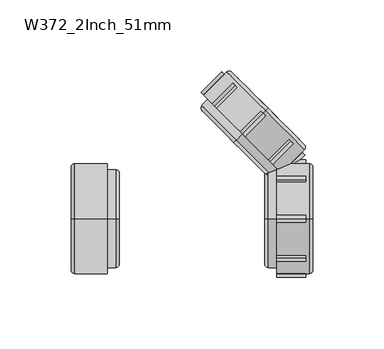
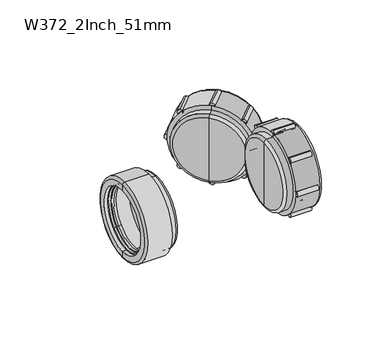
"""IFC4 building model written with IfcOpenShell, lengths in millimetres: pipe fitting geometry, Durapipe_PipeFitting_VulcatheneMechanical_SingleWye_W37 : W372_2Inch_51mm."""

from ifc_helpers import new_model, si_unit, point, frame, frame_2d, origin, place, context, project, spatial, polyline, circle_curve, ellipse_curve, trimmed, segment, composite_curve, outline, extrude, source, transform, mapped, element, save
from ifc_brep_helpers import plane_surface, cylinder_surface, revolved_surface, advanced_brep


def w372_2inch_51mm_546ab476(model_context):
    return source(origin(), model_context, "Body", "SolidModel", [
        advanced_brep(
        [(90.8911868, 58.5911868, -22.839549), (89.7911868, 59.6911868, -21.2839141), (59.6911868, 89.7911868, 21.2839141), (58.5911868, 90.8911868, 22.839549), (86.5813888, 54.9813888, -22.3445743), (54.9813888, 86.5813888, 22.3445743), (85.2914393, 54.2914393, -21.9203102), (86.2813888, 55.2813888, -21.9203102), (55.2813888, 86.2813888, 21.9203102), (54.2914393, 85.2914393, 21.9203102), (54.9914393, 84.5914393, 20.9303607), (84.5914393, 54.9914393, -20.9303607), (56.6177849, 86.2177849, 20.9303607), (86.2177849, 56.6177849, -20.9303607), (56.8177849, 86.0177849, 20.647518), (86.0177849, 56.8177849, -20.647518), (88.0234198, 57.9234198, -21.2839141), (87.5734198, 58.3734198, -20.647518), (58.3734198, 87.5734198, 20.647518), (57.9234198, 88.0234198, 21.2839141)],
        [
            (0, 1),
            (1, 2, circle_curve(frame((74.7411868, 74.7411868, 0.0), z_axis=(-0.7071067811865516, -0.7071067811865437, 0.0), x_axis=(-0.49999999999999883, 0.5000000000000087, 0.7071067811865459)), 30.1)),
            (2, 3),
            (3, 0, circle_curve(frame((74.7411868, 74.7411868, 0.0), z_axis=(0.7071067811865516, 0.7071067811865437, 0.0), x_axis=(-0.49999999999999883, 0.5000000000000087, 0.7071067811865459)), 32.3)),
            (2, 1, circle_curve(frame((74.7411868, 74.7411868, 0.0), z_axis=(-0.7071067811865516, -0.7071067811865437, 0.0), x_axis=(-0.49999999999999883, 0.5000000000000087, 0.7071067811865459)), 30.1)),
            (0, 3, circle_curve(frame((74.7411868, 74.7411868, 0.0), z_axis=(0.7071067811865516, 0.7071067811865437, 0.0), x_axis=(-0.49999999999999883, 0.5000000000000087, 0.7071067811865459)), 32.3)),
            (4, 0),
            (3, 5),
            (5, 4, circle_curve(frame((70.7813888, 70.7813888, 0.0), z_axis=(0.7071067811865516, 0.7071067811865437, 0.0), x_axis=(-0.49999999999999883, 0.5000000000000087, 0.7071067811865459)), 31.6)),
            (4, 5, circle_curve(frame((70.7813888, 70.7813888, 0.0), z_axis=(0.7071067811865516, 0.7071067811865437, 0.0), x_axis=(-0.49999999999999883, 0.5000000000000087, 0.7071067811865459)), 31.6)),
            (6, 7),
            (7, 8, circle_curve(frame((70.7813888, 70.7813888, 0.0), z_axis=(-0.7071067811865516, -0.7071067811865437, 0.0), x_axis=(-0.49999999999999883, 0.5000000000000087, 0.7071067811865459)), 31.0)),
            (8, 9),
            (9, 6, circle_curve(frame((69.7914393, 69.7914393, 0.0), z_axis=(0.7071067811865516, 0.7071067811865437, 0.0), x_axis=(-0.49999999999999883, 0.5000000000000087, 0.7071067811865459)), 31.0)),
            (8, 7, circle_curve(frame((70.7813888, 70.7813888, 0.0), z_axis=(-0.7071067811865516, -0.7071067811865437, 0.0), x_axis=(-0.49999999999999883, 0.5000000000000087, 0.7071067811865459)), 31.0)),
            (6, 9, circle_curve(frame((69.7914393, 69.7914393, 0.0), z_axis=(0.7071067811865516, 0.7071067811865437, 0.0), x_axis=(-0.49999999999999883, 0.5000000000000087, 0.7071067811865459)), 31.0)),
            (9, 10),
            (10, 11, circle_curve(frame((69.7914393, 69.7914393, 0.0), z_axis=(0.7071067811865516, 0.7071067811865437, 0.0), x_axis=(-0.49999999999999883, 0.5000000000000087, 0.7071067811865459)), 29.6)),
            (11, 6),
            (11, 10, circle_curve(frame((69.7914393, 69.7914393, 0.0), z_axis=(0.7071067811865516, 0.7071067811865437, 0.0), x_axis=(-0.49999999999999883, 0.5000000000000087, 0.7071067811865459)), 29.6)),
            (10, 12),
            (12, 13, circle_curve(frame((71.4177849, 71.4177849, 0.0), z_axis=(0.7071067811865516, 0.7071067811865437, 0.0), x_axis=(-0.49999999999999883, 0.5000000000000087, 0.7071067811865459)), 29.6)),
            (13, 11),
            (13, 12, circle_curve(frame((71.4177849, 71.4177849, 0.0), z_axis=(0.7071067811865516, 0.7071067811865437, 0.0), x_axis=(-0.49999999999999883, 0.5000000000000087, 0.7071067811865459)), 29.6)),
            (12, 14),
            (14, 15, circle_curve(frame((71.4177849, 71.4177849, 0.0), z_axis=(0.7071067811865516, 0.7071067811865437, 0.0), x_axis=(-0.49999999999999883, 0.5000000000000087, 0.7071067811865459)), 29.2)),
            (15, 13),
            (15, 14, circle_curve(frame((71.4177849, 71.4177849, 0.0), z_axis=(0.7071067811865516, 0.7071067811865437, 0.0), x_axis=(-0.49999999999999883, 0.5000000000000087, 0.7071067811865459)), 29.2)),
            (16, 17),
            (17, 18, circle_curve(frame((72.9734198, 72.9734198, 0.0), z_axis=(-0.7071067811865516, -0.7071067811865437, 0.0), x_axis=(-0.49999999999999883, 0.5000000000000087, 0.7071067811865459)), 29.2)),
            (18, 19),
            (19, 16, circle_curve(frame((72.9734198, 72.9734198, 0.0), z_axis=(0.7071067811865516, 0.7071067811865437, 0.0), x_axis=(-0.49999999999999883, 0.5000000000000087, 0.7071067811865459)), 30.1)),
            (18, 17, circle_curve(frame((72.9734198, 72.9734198, 0.0), z_axis=(-0.7071067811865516, -0.7071067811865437, 0.0), x_axis=(-0.49999999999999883, 0.5000000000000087, 0.7071067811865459)), 29.2)),
            (16, 19, circle_curve(frame((72.9734198, 72.9734198, 0.0), z_axis=(0.7071067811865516, 0.7071067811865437, 0.0), x_axis=(-0.49999999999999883, 0.5000000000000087, 0.7071067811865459)), 30.1)),
            (1, 16),
            (19, 2),
            (14, 18),
            (17, 15),
            (5, 8),
            (7, 4),
        ],
        [
            plane_surface(frame((74.7411868, 74.7411868, 0.0), z_axis=(0.7071067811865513, 0.7071067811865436, 0.0), x_axis=(-0.4999999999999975, 0.5000000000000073, 0.707106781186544))),
            revolved_surface(polyline([(58.5911868, 90.8911868, 22.839549), (54.9813888, 86.5813888, 22.3445743)]), (78.2767207, 78.2767207, 0.0), (-0.7071067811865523, -0.7071067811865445, 0.0)),
            cylinder_surface(frame((68.3272646, 68.3272646, 0.0), z_axis=(-0.7071067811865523, -0.7071067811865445, 0.0), x_axis=(-0.49999999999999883, 0.5000000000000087, 0.7071067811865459)), 31.0),
            plane_surface(frame((69.7914393, 69.7914393, 0.0), z_axis=(-0.7071067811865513, -0.7071067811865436, 0.0), x_axis=(-0.4999999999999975, 0.5000000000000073, 0.707106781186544))),
            revolved_surface(polyline([(54.991439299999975, 84.59143930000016, 20.93036072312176), (56.617784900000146, 86.21778490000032, 20.93036072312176)]), (67.3215217, 67.3215217, 0.0), (-0.7071067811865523, -0.7071067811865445, 0.0)),
            plane_surface(frame((71.4177849, 71.4177849, 0.0), z_axis=(-0.7071067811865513, -0.7071067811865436, 0.0), x_axis=(-0.4999999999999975, 0.5000000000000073, 0.707106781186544))),
            plane_surface(frame((72.9734198, 72.9734198, 0.0), z_axis=(0.7071067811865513, 0.7071067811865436, 0.0), x_axis=(-0.4999999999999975, 0.5000000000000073, 0.707106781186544))),
            revolved_surface(polyline([(57.923419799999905, 88.0234198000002, 21.28391411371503), (59.69118680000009, 89.79118680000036, 21.28391411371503)]), (78.2767207, 78.2767207, 0.0), (-0.7071067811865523, -0.7071067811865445, 0.0)),
            revolved_surface(polyline([(56.817784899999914, 86.01778490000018, 20.64751801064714), (58.37341980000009, 87.57341980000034, 20.64751801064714)]), (75.8486521, 75.8486521, 0.0), (-0.7071067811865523, -0.7071067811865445, 0.0)),
            plane_surface(frame((70.7813888, 70.7813888, 0.0), z_axis=(-0.7071067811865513, -0.7071067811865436, 0.0), x_axis=(-0.4999999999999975, 0.5000000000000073, 0.707106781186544))),
        ],
        [
            (0, [[1, 2, 3, 4]]),
            (0, [[5, -1, 6, -3]]),
            (1, [[7, -4, 8, 9]]),
            (1, [[-8, -6, -7, 10]]),
            (2, [[11, 12, 13, 14]]),
            (2, [[15, -11, 16, -13]]),
            (3, [[17, 18, 19, -14]]),
            (3, [[-19, 20, -17, -16]]),
            (4, [[-18, 21, 22, 23]]),
            (4, [[24, -21, -20, -23]]),
            (5, [[25, 26, 27, -22]]),
            (5, [[-27, 28, -25, -24]]),
            (6, [[29, 30, 31, 32]]),
            (6, [[-31, 33, -29, 34]]),
            (7, [[35, -32, 36, -2]]),
            (7, [[-36, -34, -35, -5]]),
            (8, [[-26, 37, -30, 38]]),
            (8, [[-33, -37, -28, -38]]),
            (9, [[39, -12, 40, -9]]),
            (9, [[-40, -15, -39, -10]]),
        ],
    ),
        advanced_brep(
        [(59.538391, 59.538391, -38.8), (75.7311363, 75.7311363, -38.8), (75.7311363, 75.7311363, 38.8), (59.538391, 59.538391, 38.8), (59.538391, 59.538391, -34.5), (59.538391, 59.538391, 34.5), (77.4989032, 77.4989032, -36.3), (77.4989032, 77.4989032, -31.0), (77.4989032, 77.4989032, 31.0), (77.4989032, 77.4989032, 36.3), (74.7411868, 74.7411868, -33.0), (59.538391, 59.538391, -33.0), (59.538391, 59.538391, 33.0), (74.7411868, 74.7411868, 33.0), (74.7411868, 74.7411868, -31.0), (74.7411868, 74.7411868, 31.0), (55.2957503, 55.2957503, -34.5), (55.2957503, 55.2957503, 34.5), (53.5279833, 53.5279833, -32.0), (53.5279833, 53.5279833, 32.0), (53.5279833, 53.5279833, 0.0), (59.538391, 59.538391, 0.0)],
        [
            (0, 1),
            (1, 2, circle_curve(frame((75.7311363, 75.7311363, 0.0), z_axis=(-0.7071067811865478, -0.7071067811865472, 0.0), x_axis=(0.0, 0.0, 1.0000000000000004)), 38.8)),
            (2, 3),
            (3, 0, circle_curve(frame((59.538391, 59.538391, 0.0), z_axis=(0.7071067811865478, 0.7071067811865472, 0.0), x_axis=(0.0, 0.0, 1.0000000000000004)), 38.8)),
            (2, 1, circle_curve(frame((75.7311363, 75.7311363, 0.0), z_axis=(-0.7071067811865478, -0.7071067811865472, 0.0), x_axis=(0.0, 0.0, 1.0000000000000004)), 38.8)),
            (0, 3, circle_curve(frame((59.538391, 59.538391, 0.0), z_axis=(0.7071067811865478, 0.7071067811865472, 0.0), x_axis=(0.0, 0.0, 1.0000000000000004)), 38.8)),
            (4, 0),
            (3, 5),
            (5, 4, circle_curve(frame((59.538391, 59.538391, 0.0), z_axis=(0.7071067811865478, 0.7071067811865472, 0.0), x_axis=(0.0, 0.0, 1.0000000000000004)), 34.5)),
            (4, 5, circle_curve(frame((59.538391, 59.538391, 0.0), z_axis=(0.7071067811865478, 0.7071067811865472, 0.0), x_axis=(0.0, 0.0, 1.0000000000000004)), 34.5)),
            (6, 7),
            (7, 8, circle_curve(frame((77.4989032, 77.4989032, 0.0), z_axis=(-0.7071067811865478, -0.7071067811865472, 0.0), x_axis=(0.0, 0.0, 1.0000000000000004)), 31.0)),
            (8, 9),
            (9, 6, circle_curve(frame((77.4989032, 77.4989032, 0.0), z_axis=(0.7071067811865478, 0.7071067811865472, 0.0), x_axis=(0.0, 0.0, 1.0000000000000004)), 36.3)),
            (8, 7, circle_curve(frame((77.4989032, 77.4989032, 0.0), z_axis=(-0.7071067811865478, -0.7071067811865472, 0.0), x_axis=(0.0, 0.0, 1.0000000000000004)), 31.0)),
            (6, 9, circle_curve(frame((77.4989032, 77.4989032, 0.0), z_axis=(0.7071067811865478, 0.7071067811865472, 0.0), x_axis=(0.0, 0.0, 1.0000000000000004)), 36.3)),
            (1, 6, circle_curve(frame((75.7311363, 75.7311363, -36.3), z_axis=(0.7071067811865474, -0.7071067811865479, 0.0), x_axis=(0.7071067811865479, 0.7071067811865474, 0.0)), 2.5)),
            (9, 2, circle_curve(frame((75.7311363, 75.7311363, 36.3), z_axis=(0.7071067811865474, -0.7071067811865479, 0.0), x_axis=(0.7071067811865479, 0.7071067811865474, 0.0)), 2.5)),
            (10, 11),
            (11, 12, circle_curve(frame((59.538391, 59.538391, 0.0), z_axis=(-0.7071067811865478, -0.7071067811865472, 0.0), x_axis=(0.0, 0.0, 1.0000000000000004)), 33.0)),
            (12, 13),
            (13, 10, circle_curve(frame((74.7411868, 74.7411868, 0.0), z_axis=(0.7071067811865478, 0.7071067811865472, 0.0), x_axis=(0.0, 0.0, 1.0000000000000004)), 33.0)),
            (12, 11, circle_curve(frame((59.538391, 59.538391, 0.0), z_axis=(-0.7071067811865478, -0.7071067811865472, 0.0), x_axis=(0.0, 0.0, 1.0000000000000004)), 33.0)),
            (10, 13, circle_curve(frame((74.7411868, 74.7411868, 0.0), z_axis=(0.7071067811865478, 0.7071067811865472, 0.0), x_axis=(0.0, 0.0, 1.0000000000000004)), 33.0)),
            (14, 10),
            (13, 15),
            (15, 14, circle_curve(frame((74.7411868, 74.7411868, 0.0), z_axis=(0.7071067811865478, 0.7071067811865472, 0.0), x_axis=(0.0, 0.0, 1.0000000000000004)), 31.0)),
            (14, 15, circle_curve(frame((74.7411868, 74.7411868, 0.0), z_axis=(0.7071067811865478, 0.7071067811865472, 0.0), x_axis=(0.0, 0.0, 1.0000000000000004)), 31.0)),
            (7, 14),
            (15, 8),
            (16, 4),
            (5, 17),
            (17, 16, circle_curve(frame((55.2957503, 55.2957503, 0.0), z_axis=(0.7071067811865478, 0.7071067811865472, 0.0), x_axis=(0.0, 0.0, 1.0000000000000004)), 34.5)),
            (16, 17, circle_curve(frame((55.2957503, 55.2957503, 0.0), z_axis=(0.7071067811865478, 0.7071067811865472, 0.0), x_axis=(0.0, 0.0, 1.0000000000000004)), 34.5)),
            (18, 16, circle_curve(frame((55.2957503, 55.2957503, -32.0), z_axis=(0.7071067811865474, -0.7071067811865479, 0.0), x_axis=(0.7071067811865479, 0.7071067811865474, 0.0)), 2.5)),
            (17, 19, circle_curve(frame((55.2957503, 55.2957503, 32.0), z_axis=(0.7071067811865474, -0.7071067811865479, 0.0), x_axis=(0.7071067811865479, 0.7071067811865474, 0.0)), 2.5)),
            (19, 18, circle_curve(frame((53.5279833, 53.5279833, 0.0), z_axis=(0.7071067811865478, 0.7071067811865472, 0.0), x_axis=(0.0, 0.0, 1.0000000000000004)), 32.0)),
            (18, 19, circle_curve(frame((53.5279833, 53.5279833, 0.0), z_axis=(0.7071067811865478, 0.7071067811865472, 0.0), x_axis=(0.0, 0.0, 1.0000000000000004)), 32.0)),
            (20, 18),
            (19, 20),
            (11, 21),
            (21, 12),
        ],
        [
            cylinder_surface(frame((1181.1524531, 1181.1524531, 0.0), z_axis=(-0.7071067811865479, -0.7071067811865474, 0.0), x_axis=(0.0, 0.0, 1.0000000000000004)), 38.8),
            plane_surface(frame((59.538391, 59.538391, 0.0), z_axis=(-0.7071067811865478, -0.7071067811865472, 0.0), x_axis=(0.0, 0.0, 1.0))),
            plane_surface(frame((77.4989032, 77.4989032, 0.0), z_axis=(0.7071067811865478, 0.7071067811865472, 0.0), x_axis=(0.0, 0.0, 1.0))),
            revolved_surface(trimmed(ellipse_curve(frame((75.7311363, 75.7311363, 36.3), z_axis=(0.7071067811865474, -0.7071067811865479, 0.0), x_axis=(0.7071067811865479, 0.7071067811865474, 0.0)), 2.5, 2.5), [point((77.4989032, 77.4989032, 36.3))], [point((75.7311363, 75.7311363, 38.8))], True, "CARTESIAN"), (1181.1524531, 1181.1524531, 0.0), (-0.7071067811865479, -0.7071067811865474, 0.0)),
            revolved_surface(polyline([(59.538390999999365, 59.538391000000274, 33.000000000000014), (74.74118679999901, 74.74118679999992, 33.000000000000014)]), (1181.1524531, 1181.1524531, 0.0), (-0.7071067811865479, -0.7071067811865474, 0.0)),
            plane_surface(frame((74.7411868, 74.7411868, 0.0), z_axis=(-0.7071067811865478, -0.7071067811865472, 0.0), x_axis=(0.0, 0.0, 1.0))),
            revolved_surface(polyline([(74.74118679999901, 74.74118679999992, 31.000000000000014), (77.49890319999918, 77.49890320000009, 31.000000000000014)]), (1181.1524531, 1181.1524531, 0.0), (-0.7071067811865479, -0.7071067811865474, 0.0)),
            cylinder_surface(frame((1181.1524531, 1181.1524531, 0.0), z_axis=(-0.7071067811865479, -0.7071067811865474, 0.0), x_axis=(0.0, 0.0, 1.0000000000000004)), 34.5),
            revolved_surface(trimmed(ellipse_curve(frame((55.2957503, 55.2957503, 32.0), z_axis=(0.7071067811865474, -0.7071067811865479, 0.0), x_axis=(0.7071067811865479, 0.7071067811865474, 0.0)), 2.5, 2.5), [point((55.2957503, 55.2957503, 34.5))], [point((53.5279833, 53.5279833, 32.0))], True, "CARTESIAN"), (1181.1524531, 1181.1524531, 0.0), (-0.7071067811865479, -0.7071067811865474, 0.0)),
            plane_surface(frame((53.5279833, 53.5279833, 0.0), z_axis=(-0.7071067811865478, -0.7071067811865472, 0.0), x_axis=(0.0, 0.0, 1.0))),
            plane_surface(frame((59.538391, 59.538391, 0.0), z_axis=(0.7071067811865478, 0.7071067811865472, 0.0), x_axis=(0.0, 0.0, 1.0))),
        ],
        [
            (0, [[1, 2, 3, 4]]),
            (0, [[-3, 5, -1, 6]]),
            (1, [[7, -4, 8, 9]]),
            (1, [[-8, -6, -7, 10]]),
            (2, [[11, 12, 13, 14]]),
            (2, [[-13, 15, -11, 16]]),
            (3, [[17, -14, 18, -2]]),
            (3, [[-18, -16, -17, -5]]),
            (4, [[19, 20, 21, 22]]),
            (4, [[-21, 23, -19, 24]]),
            (5, [[25, -22, 26, 27]]),
            (5, [[-26, -24, -25, 28]]),
            (6, [[29, -27, 30, -12]]),
            (6, [[-30, -28, -29, -15]]),
            (7, [[31, -9, 32, 33]]),
            (7, [[-32, -10, -31, 34]]),
            (8, [[35, -33, 36, 37]]),
            (8, [[-36, -34, -35, 38]]),
            (9, [[39, -37, 40]]),
            (9, [[-40, -38, -39]]),
            (10, [[41, 42, -20]]),
            (10, [[-42, -41, -23]]),
        ],
    ),
        extrude(outline(composite_curve([segment(trimmed(circle_curve(frame_2d((0.0, 2.5)), 2.5), [point((0.0, 5.0))], [point((0.0, 0.0))], False, "CARTESIAN"), True, "CONTINUOUS"), segment(trimmed(circle_curve(frame_2d((0.0, 2.5)), 2.5), [point((0.0, 0.0))], [point((0.0, 5.0))], False, "CARTESIAN"), True, "CONTINUOUS")], self_intersect=False)), frame((32.1026479, 86.9741341, 2.5), z_axis=(0.7071067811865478, 0.7071067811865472, 0.0), x_axis=(0.7071067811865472, -0.7071067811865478, 0.0)), (0.0, 0.0, 1.0), 20.4),
        extrude(outline(composite_curve([segment(trimmed(circle_curve(frame_2d((11.3642569, -24.9357431)), 2.5), [point((11.3642569, -22.4357431))], [point((11.3642569, -27.4357431))], False, "CARTESIAN"), True, "CONTINUOUS"), segment(trimmed(circle_curve(frame_2d((11.3642569, -24.9357431)), 2.5), [point((11.3642569, -27.4357431))], [point((11.3642569, -22.4357431))], False, "CARTESIAN"), True, "CONTINUOUS")], self_intersect=False)), frame((32.1026479, 86.9741341, 2.5), z_axis=(0.7071067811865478, 0.7071067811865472, 0.0), x_axis=(0.7071067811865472, -0.7071067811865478, 0.0)), (0.0, 0.0, 1.0), 20.4),
        extrude(outline(composite_curve([segment(trimmed(circle_curve(frame_2d((38.8, -36.3)), 2.5), [point((38.8, -33.8))], [point((38.8, -38.8))], False, "CARTESIAN"), True, "CONTINUOUS"), segment(trimmed(circle_curve(frame_2d((38.8, -36.3)), 2.5), [point((38.8, -38.8))], [point((38.8, -33.8))], False, "CARTESIAN"), True, "CONTINUOUS")], self_intersect=False)), frame((32.1026479, 86.9741341, 2.5), z_axis=(0.7071067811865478, 0.7071067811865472, 0.0), x_axis=(0.7071067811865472, -0.7071067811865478, 0.0)), (0.0, 0.0, 1.0), 20.4),
        extrude(outline(composite_curve([segment(trimmed(circle_curve(frame_2d((66.2357431, -24.9357431)), 2.5), [point((66.2357431, -22.4357431))], [point((66.2357431, -27.4357431))], False, "CARTESIAN"), True, "CONTINUOUS"), segment(trimmed(circle_curve(frame_2d((66.2357431, -24.9357431)), 2.5), [point((66.2357431, -27.4357431))], [point((66.2357431, -22.4357431))], False, "CARTESIAN"), True, "CONTINUOUS")], self_intersect=False)), frame((32.1026479, 86.9741341, 2.5), z_axis=(0.7071067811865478, 0.7071067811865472, 0.0), x_axis=(0.7071067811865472, -0.7071067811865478, 0.0)), (0.0, 0.0, 1.0), 20.4),
        extrude(outline(composite_curve([segment(trimmed(circle_curve(frame_2d((77.6, 2.5)), 2.5), [point((77.6, 5.0))], [point((77.6, 0.0))], False, "CARTESIAN"), True, "CONTINUOUS"), segment(trimmed(circle_curve(frame_2d((77.6, 2.5)), 2.5), [point((77.6, 0.0))], [point((77.6, 5.0))], False, "CARTESIAN"), True, "CONTINUOUS")], self_intersect=False)), frame((32.1026479, 86.9741341, 2.5), z_axis=(0.7071067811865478, 0.7071067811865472, 0.0), x_axis=(0.7071067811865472, -0.7071067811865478, 0.0)), (0.0, 0.0, 1.0), 20.4),
        extrude(outline(composite_curve([segment(trimmed(circle_curve(frame_2d((66.2357431, 29.9357431)), 2.5), [point((66.2357431, 32.4357431))], [point((66.2357431, 27.4357431))], False, "CARTESIAN"), True, "CONTINUOUS"), segment(trimmed(circle_curve(frame_2d((66.2357431, 29.9357431)), 2.5), [point((66.2357431, 27.4357431))], [point((66.2357431, 32.4357431))], False, "CARTESIAN"), True, "CONTINUOUS")], self_intersect=False)), frame((32.1026479, 86.9741341, 2.5), z_axis=(0.7071067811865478, 0.7071067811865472, 0.0), x_axis=(0.7071067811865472, -0.7071067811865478, 0.0)), (0.0, 0.0, 1.0), 20.4),
        extrude(outline(composite_curve([segment(trimmed(circle_curve(frame_2d((38.8, 41.3)), 2.5), [point((38.8, 43.8))], [point((38.8, 38.8))], False, "CARTESIAN"), True, "CONTINUOUS"), segment(trimmed(circle_curve(frame_2d((38.8, 41.3)), 2.5), [point((38.8, 38.8))], [point((38.8, 43.8))], False, "CARTESIAN"), True, "CONTINUOUS")], self_intersect=False)), frame((32.1026479, 86.9741341, 2.5), z_axis=(0.7071067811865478, 0.7071067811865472, 0.0), x_axis=(0.7071067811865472, -0.7071067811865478, 0.0)), (0.0, 0.0, 1.0), 20.4),
        extrude(outline(composite_curve([segment(trimmed(circle_curve(frame_2d((11.3642569, 29.9357431)), 2.5), [point((11.3642569, 32.4357431))], [point((11.3642569, 27.4357431))], False, "CARTESIAN"), True, "CONTINUOUS"), segment(trimmed(circle_curve(frame_2d((11.3642569, 29.9357431)), 2.5), [point((11.3642569, 27.4357431))], [point((11.3642569, 32.4357431))], False, "CARTESIAN"), True, "CONTINUOUS")], self_intersect=False)), frame((32.1026479, 86.9741341, 2.5), z_axis=(0.7071067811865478, 0.7071067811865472, 0.0), x_axis=(0.7071067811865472, -0.7071067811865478, 0.0)), (0.0, 0.0, 1.0), 20.4),
        advanced_brep(
        [(105.1, 22.839549, 22.839549), (105.1, 21.2839141, 21.2839141), (105.1, -21.2839141, -21.2839141), (105.1, -22.839549, -22.839549), (99.5, 22.3445743, 22.3445743), (99.5, -22.3445743, -22.3445743), (98.1, 21.9203102, 21.9203102), (99.5, 21.9203102, 21.9203102), (99.5, -21.9203102, -21.9203102), (98.1, -21.9203102, -21.9203102), (98.1, -20.9303607, -20.9303607), (98.1, 20.9303607, 20.9303607), (100.4, -20.9303607, -20.9303607), (100.4, 20.9303607, 20.9303607), (100.4, -20.647518, -20.647518), (100.4, 20.647518, 20.647518), (102.6, 21.2839141, 21.2839141), (102.6, 20.647518, 20.647518), (102.6, -20.647518, -20.647518), (102.6, -21.2839141, -21.2839141)],
        [
            (0, 1),
            (1, 2, circle_curve(frame((105.1, 0.0, 0.0), z_axis=(-1.0, 0.0, 0.0), x_axis=(0.0, -0.7071067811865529, -0.7071067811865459)), 30.1)),
            (2, 3),
            (3, 0, circle_curve(frame((105.1, 0.0, 0.0), z_axis=(1.0, 0.0, 0.0), x_axis=(0.0, -0.7071067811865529, -0.7071067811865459)), 32.3)),
            (2, 1, circle_curve(frame((105.1, 0.0, 0.0), z_axis=(-1.0, 0.0, 0.0), x_axis=(0.0, -0.7071067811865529, -0.7071067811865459)), 30.1)),
            (0, 3, circle_curve(frame((105.1, 0.0, 0.0), z_axis=(1.0, 0.0, 0.0), x_axis=(0.0, -0.7071067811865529, -0.7071067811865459)), 32.3)),
            (4, 0),
            (3, 5),
            (5, 4, circle_curve(frame((99.5, 0.0, 0.0), z_axis=(1.0, 0.0, 0.0), x_axis=(0.0, -0.7071067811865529, -0.7071067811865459)), 31.6)),
            (4, 5, circle_curve(frame((99.5, 0.0, 0.0), z_axis=(1.0, 0.0, 0.0), x_axis=(0.0, -0.7071067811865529, -0.7071067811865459)), 31.6)),
            (6, 7),
            (7, 8, circle_curve(frame((99.5, 0.0, 0.0), z_axis=(-1.0, 0.0, 0.0), x_axis=(0.0, -0.7071067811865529, -0.7071067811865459)), 31.0)),
            (8, 9),
            (9, 6, circle_curve(frame((98.1, 0.0, 0.0), z_axis=(1.0, 0.0, 0.0), x_axis=(0.0, -0.7071067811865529, -0.7071067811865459)), 31.0)),
            (8, 7, circle_curve(frame((99.5, 0.0, 0.0), z_axis=(-1.0, 0.0, 0.0), x_axis=(0.0, -0.7071067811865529, -0.7071067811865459)), 31.0)),
            (6, 9, circle_curve(frame((98.1, 0.0, 0.0), z_axis=(1.0, 0.0, 0.0), x_axis=(0.0, -0.7071067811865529, -0.7071067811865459)), 31.0)),
            (9, 10),
            (10, 11, circle_curve(frame((98.1, 0.0, 0.0), z_axis=(1.0, 0.0, 0.0), x_axis=(0.0, -0.7071067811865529, -0.7071067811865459)), 29.6)),
            (11, 6),
            (11, 10, circle_curve(frame((98.1, 0.0, 0.0), z_axis=(1.0, 0.0, 0.0), x_axis=(0.0, -0.7071067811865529, -0.7071067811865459)), 29.6)),
            (10, 12),
            (12, 13, circle_curve(frame((100.4, 0.0, 0.0), z_axis=(1.0, 0.0, 0.0), x_axis=(0.0, -0.7071067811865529, -0.7071067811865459)), 29.6)),
            (13, 11),
            (13, 12, circle_curve(frame((100.4, 0.0, 0.0), z_axis=(1.0, 0.0, 0.0), x_axis=(0.0, -0.7071067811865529, -0.7071067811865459)), 29.6)),
            (12, 14),
            (14, 15, circle_curve(frame((100.4, 0.0, 0.0), z_axis=(1.0, 0.0, 0.0), x_axis=(0.0, -0.7071067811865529, -0.7071067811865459)), 29.2)),
            (15, 13),
            (15, 14, circle_curve(frame((100.4, 0.0, 0.0), z_axis=(1.0, 0.0, 0.0), x_axis=(0.0, -0.7071067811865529, -0.7071067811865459)), 29.2)),
            (16, 17),
            (17, 18, circle_curve(frame((102.6, 0.0, 0.0), z_axis=(-1.0, 0.0, 0.0), x_axis=(0.0, -0.7071067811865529, -0.7071067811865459)), 29.2)),
            (18, 19),
            (19, 16, circle_curve(frame((102.6, 0.0, 0.0), z_axis=(1.0, 0.0, 0.0), x_axis=(0.0, -0.7071067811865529, -0.7071067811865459)), 30.1)),
            (18, 17, circle_curve(frame((102.6, 0.0, 0.0), z_axis=(-1.0, 0.0, 0.0), x_axis=(0.0, -0.7071067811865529, -0.7071067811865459)), 29.2)),
            (16, 19, circle_curve(frame((102.6, 0.0, 0.0), z_axis=(1.0, 0.0, 0.0), x_axis=(0.0, -0.7071067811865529, -0.7071067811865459)), 30.1)),
            (1, 16),
            (19, 2),
            (14, 18),
            (17, 15),
            (5, 8),
            (7, 4),
        ],
        [
            plane_surface(frame((105.1, 0.0, 0.0), z_axis=(1.0, 0.0, 0.0), x_axis=(0.0, -0.707106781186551, -0.707106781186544))),
            revolved_surface(polyline([(105.1, -22.839549, -22.839549), (99.5, -22.3445743, -22.3445743)]), (110.1, 0.0, 0.0), (-1.0000000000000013, 0.0, 0.0)),
            cylinder_surface(frame((96.0293443, 0.0, 0.0), z_axis=(-1.0000000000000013, 0.0, 0.0), x_axis=(0.0, -0.7071067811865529, -0.7071067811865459)), 31.0),
            plane_surface(frame((98.1, 0.0, 0.0), z_axis=(-1.0, 0.0, 0.0), x_axis=(0.0, -0.707106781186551, -0.707106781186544))),
            revolved_surface(polyline([(98.10000000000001, -20.930360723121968, -20.93036072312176), (100.40000000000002, -20.930360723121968, -20.93036072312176)]), (94.607009, 0.0, 0.0), (-1.0000000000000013, 0.0, 0.0)),
            plane_surface(frame((100.4, 0.0, 0.0), z_axis=(-1.0, 0.0, 0.0), x_axis=(0.0, -0.707106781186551, -0.707106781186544))),
            plane_surface(frame((102.6, 0.0, 0.0), z_axis=(1.0, 0.0, 0.0), x_axis=(0.0, -0.707106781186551, -0.707106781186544))),
            revolved_surface(polyline([(102.59999999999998, -21.283914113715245, -21.28391411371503), (105.09999999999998, -21.283914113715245, -21.28391411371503)]), (110.1, 0.0, 0.0), (-1.0000000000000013, 0.0, 0.0)),
            revolved_surface(polyline([(100.39999999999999, -20.647518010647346, -20.64751801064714), (102.59999999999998, -20.647518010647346, -20.64751801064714)]), (106.6661924, 0.0, 0.0), (-1.0000000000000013, 0.0, 0.0)),
            plane_surface(frame((99.5, 0.0, 0.0), z_axis=(-1.0, 0.0, 0.0), x_axis=(0.0, -0.707106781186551, -0.707106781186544))),
        ],
        [
            (0, [[1, 2, 3, 4]]),
            (0, [[5, -1, 6, -3]]),
            (1, [[7, -4, 8, 9]]),
            (1, [[-8, -6, -7, 10]]),
            (2, [[11, 12, 13, 14]]),
            (2, [[15, -11, 16, -13]]),
            (3, [[17, 18, 19, -14]]),
            (3, [[-19, 20, -17, -16]]),
            (4, [[-18, 21, 22, 23]]),
            (4, [[24, -21, -20, -23]]),
            (5, [[25, 26, 27, -22]]),
            (5, [[-27, 28, -25, -24]]),
            (6, [[29, 30, 31, 32]]),
            (6, [[-31, 33, -29, 34]]),
            (7, [[35, -32, 36, -2]]),
            (7, [[-36, -34, -35, -5]]),
            (8, [[-26, 37, -30, 38]]),
            (8, [[-33, -37, -28, -38]]),
            (9, [[39, -12, 40, -9]]),
            (9, [[-40, -15, -39, -10]]),
        ],
    ),
        advanced_brep(
        [(83.6, 0.0, 38.8), (106.5, 0.0, 38.8), (106.5, 0.0, -38.8), (83.6, 0.0, -38.8), (83.6, 0.0, 34.5), (83.6, 0.0, -34.5), (109.0, 0.0, 36.3), (109.0, 0.0, 31.0), (109.0, 0.0, -31.0), (109.0, 0.0, -36.3), (105.1, 0.0, 33.0), (83.6, 0.0, 33.0), (83.6, 0.0, -33.0), (105.1, 0.0, -33.0), (105.1, 0.0, 31.0), (105.1, 0.0, -31.0), (77.6, 0.0, 34.5), (77.6, 0.0, -34.5), (75.1, 0.0, 32.0), (75.1, 0.0, -32.0), (75.1, 0.0, 0.0), (83.6, 0.0, 0.0)],
        [
            (0, 1),
            (1, 2, circle_curve(frame((106.5, 0.0, 0.0), z_axis=(-1.0, 0.0, 0.0), x_axis=(0.0, 0.0, -1.0000000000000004)), 38.8)),
            (2, 3),
            (3, 0, circle_curve(frame((83.6, 0.0, 0.0), z_axis=(1.0, 0.0, 0.0), x_axis=(0.0, 0.0, -1.0000000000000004)), 38.8)),
            (2, 1, circle_curve(frame((106.5, 0.0, 0.0), z_axis=(-1.0, 0.0, 0.0), x_axis=(0.0, 0.0, -1.0000000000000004)), 38.8)),
            (0, 3, circle_curve(frame((83.6, 0.0, 0.0), z_axis=(1.0, 0.0, 0.0), x_axis=(0.0, 0.0, -1.0000000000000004)), 38.8)),
            (4, 0),
            (3, 5),
            (5, 4, circle_curve(frame((83.6, 0.0, 0.0), z_axis=(1.0, 0.0, 0.0), x_axis=(0.0, 0.0, -1.0000000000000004)), 34.5)),
            (4, 5, circle_curve(frame((83.6, 0.0, 0.0), z_axis=(1.0, 0.0, 0.0), x_axis=(0.0, 0.0, -1.0000000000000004)), 34.5)),
            (6, 7),
            (7, 8, circle_curve(frame((109.0, 0.0, 0.0), z_axis=(-1.0, 0.0, 0.0), x_axis=(0.0, 0.0, -1.0000000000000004)), 31.0)),
            (8, 9),
            (9, 6, circle_curve(frame((109.0, 0.0, 0.0), z_axis=(1.0, 0.0, 0.0), x_axis=(0.0, 0.0, -1.0000000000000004)), 36.3)),
            (8, 7, circle_curve(frame((109.0, 0.0, 0.0), z_axis=(-1.0, 0.0, 0.0), x_axis=(0.0, 0.0, -1.0000000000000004)), 31.0)),
            (6, 9, circle_curve(frame((109.0, 0.0, 0.0), z_axis=(1.0, 0.0, 0.0), x_axis=(0.0, 0.0, -1.0000000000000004)), 36.3)),
            (1, 6, circle_curve(frame((106.5, 0.0, 36.3), z_axis=(0.0, 1.0000000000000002, 0.0), x_axis=(1.0000000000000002, 0.0, 0.0)), 2.5)),
            (9, 2, circle_curve(frame((106.5, 0.0, -36.3), z_axis=(0.0, 1.0000000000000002, 0.0), x_axis=(1.0000000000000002, 0.0, 0.0)), 2.5)),
            (10, 11),
            (11, 12, circle_curve(frame((83.6, 0.0, 0.0), z_axis=(-1.0, 0.0, 0.0), x_axis=(0.0, 0.0, -1.0000000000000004)), 33.0)),
            (12, 13),
            (13, 10, circle_curve(frame((105.1, 0.0, 0.0), z_axis=(1.0, 0.0, 0.0), x_axis=(0.0, 0.0, -1.0000000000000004)), 33.0)),
            (12, 11, circle_curve(frame((83.6, 0.0, 0.0), z_axis=(-1.0, 0.0, 0.0), x_axis=(0.0, 0.0, -1.0000000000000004)), 33.0)),
            (10, 13, circle_curve(frame((105.1, 0.0, 0.0), z_axis=(1.0, 0.0, 0.0), x_axis=(0.0, 0.0, -1.0000000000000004)), 33.0)),
            (14, 10),
            (13, 15),
            (15, 14, circle_curve(frame((105.1, 0.0, 0.0), z_axis=(1.0, 0.0, 0.0), x_axis=(0.0, 0.0, -1.0000000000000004)), 31.0)),
            (14, 15, circle_curve(frame((105.1, 0.0, 0.0), z_axis=(1.0, 0.0, 0.0), x_axis=(0.0, 0.0, -1.0000000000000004)), 31.0)),
            (7, 14),
            (15, 8),
            (16, 4),
            (5, 17),
            (17, 16, circle_curve(frame((77.6, 0.0, 0.0), z_axis=(1.0, 0.0, 0.0), x_axis=(0.0, 0.0, -1.0000000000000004)), 34.5)),
            (16, 17, circle_curve(frame((77.6, 0.0, 0.0), z_axis=(1.0, 0.0, 0.0), x_axis=(0.0, 0.0, -1.0000000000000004)), 34.5)),
            (18, 16, circle_curve(frame((77.6, 0.0, 32.0), z_axis=(0.0, 1.0000000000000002, 0.0), x_axis=(1.0000000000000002, 0.0, 0.0)), 2.5)),
            (17, 19, circle_curve(frame((77.6, 0.0, -32.0), z_axis=(0.0, 1.0000000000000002, 0.0), x_axis=(1.0000000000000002, 0.0, 0.0)), 2.5)),
            (19, 18, circle_curve(frame((75.1, 0.0, 0.0), z_axis=(1.0, 0.0, 0.0), x_axis=(0.0, 0.0, -1.0000000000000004)), 32.0)),
            (18, 19, circle_curve(frame((75.1, 0.0, 0.0), z_axis=(1.0, 0.0, 0.0), x_axis=(0.0, 0.0, -1.0000000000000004)), 32.0)),
            (20, 18),
            (19, 20),
            (11, 21),
            (21, 12),
        ],
        [
            cylinder_surface(frame((1669.8018184, 0.0, 0.0), z_axis=(-1.0000000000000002, 0.0, 0.0), x_axis=(0.0, 0.0, -1.0000000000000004)), 38.8),
            plane_surface(frame((83.6, 0.0, 0.0), z_axis=(-1.0, 0.0, 0.0), x_axis=(0.0, 0.0, -1.0))),
            plane_surface(frame((109.0, 0.0, 0.0), z_axis=(1.0, 0.0, 0.0), x_axis=(0.0, 0.0, -1.0))),
            revolved_surface(trimmed(ellipse_curve(frame((106.5, 0.0, -36.3), z_axis=(0.0, 1.0000000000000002, 0.0), x_axis=(1.0000000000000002, 0.0, 0.0)), 2.5, 2.5), [point((109.0, 0.0, -36.3))], [point((106.5, 0.0, -38.8))], True, "CARTESIAN"), (1669.8018184, 0.0, 0.0), (-1.0000000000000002, 0.0, 0.0)),
            revolved_surface(polyline([(83.599999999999, 0.0, -33.000000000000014), (105.099999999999, 0.0, -33.000000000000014)]), (1669.8018184, 0.0, 0.0), (-1.0000000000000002, 0.0, 0.0)),
            plane_surface(frame((105.1, 0.0, 0.0), z_axis=(-1.0, 0.0, 0.0), x_axis=(0.0, 0.0, -1.0))),
            revolved_surface(polyline([(105.099999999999, 0.0, -31.000000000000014), (108.99999999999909, 0.0, -31.000000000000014)]), (1669.8018184, 0.0, 0.0), (-1.0000000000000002, 0.0, 0.0)),
            cylinder_surface(frame((1669.8018184, 0.0, 0.0), z_axis=(-1.0000000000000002, 0.0, 0.0), x_axis=(0.0, 0.0, -1.0000000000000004)), 34.5),
            revolved_surface(trimmed(ellipse_curve(frame((77.6, 0.0, -32.0), z_axis=(0.0, 1.0000000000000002, 0.0), x_axis=(1.0000000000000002, 0.0, 0.0)), 2.5, 2.5), [point((77.6, 0.0, -34.5))], [point((75.1, 0.0, -32.0))], True, "CARTESIAN"), (1669.8018184, 0.0, 0.0), (-1.0000000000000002, 0.0, 0.0)),
            plane_surface(frame((75.1, 0.0, 0.0), z_axis=(-1.0, 0.0, 0.0), x_axis=(0.0, 0.0, -1.0))),
            plane_surface(frame((83.6, 0.0, 0.0), z_axis=(1.0, 0.0, 0.0), x_axis=(0.0, 0.0, -1.0))),
        ],
        [
            (0, [[1, 2, 3, 4]]),
            (0, [[-3, 5, -1, 6]]),
            (1, [[7, -4, 8, 9]]),
            (1, [[-8, -6, -7, 10]]),
            (2, [[11, 12, 13, 14]]),
            (2, [[-13, 15, -11, 16]]),
            (3, [[17, -14, 18, -2]]),
            (3, [[-18, -16, -17, -5]]),
            (4, [[19, 20, 21, 22]]),
            (4, [[-21, 23, -19, 24]]),
            (5, [[25, -22, 26, 27]]),
            (5, [[-26, -24, -25, 28]]),
            (6, [[29, -27, 30, -12]]),
            (6, [[-30, -28, -29, -15]]),
            (7, [[31, -9, 32, 33]]),
            (7, [[-32, -10, -31, 34]]),
            (8, [[35, -33, 36, 37]]),
            (8, [[-36, -34, -35, 38]]),
            (9, [[39, -37, 40]]),
            (9, [[-40, -38, -39]]),
            (10, [[41, 42, -20]]),
            (10, [[-42, -41, -23]]),
        ],
    ),
        extrude(outline(composite_curve([segment(trimmed(circle_curve(frame_2d((-38.8, 0.0)), 2.5), [point((-38.8, 2.5))], [point((-38.8, -2.5))], False, "CARTESIAN"), True, "CONTINUOUS"), segment(trimmed(circle_curve(frame_2d((-38.8, 0.0)), 2.5), [point((-38.8, -2.5))], [point((-38.8, 2.5))], False, "CARTESIAN"), True, "CONTINUOUS")], self_intersect=False)), frame((83.6, 0.0, 0.0), z_axis=(1.0, 0.0, 0.0), x_axis=(0.0, 1.0, 0.0)), (0.0, 0.0, 1.0), 20.4),
        extrude(outline(composite_curve([segment(trimmed(circle_curve(frame_2d((-27.4357431, -27.4357431)), 2.5), [point((-27.4357431, -24.9357431))], [point((-27.4357431, -29.9357431))], False, "CARTESIAN"), True, "CONTINUOUS"), segment(trimmed(circle_curve(frame_2d((-27.4357431, -27.4357431)), 2.5), [point((-27.4357431, -29.9357431))], [point((-27.4357431, -24.9357431))], False, "CARTESIAN"), True, "CONTINUOUS")], self_intersect=False)), frame((83.6, 0.0, 0.0), z_axis=(1.0, 0.0, 0.0), x_axis=(0.0, 1.0, 0.0)), (0.0, 0.0, 1.0), 20.4),
        extrude(outline(composite_curve([segment(trimmed(circle_curve(frame_2d((0.0, -38.8)), 2.5), [point((0.0, -36.3))], [point((0.0, -41.3))], False, "CARTESIAN"), True, "CONTINUOUS"), segment(trimmed(circle_curve(frame_2d((0.0, -38.8)), 2.5), [point((0.0, -41.3))], [point((0.0, -36.3))], False, "CARTESIAN"), True, "CONTINUOUS")], self_intersect=False)), frame((83.6, 0.0, 0.0), z_axis=(1.0, 0.0, 0.0), x_axis=(0.0, 1.0, 0.0)), (0.0, 0.0, 1.0), 20.4),
        extrude(outline(composite_curve([segment(trimmed(circle_curve(frame_2d((27.4357431, -27.4357431)), 2.5), [point((27.4357431, -24.9357431))], [point((27.4357431, -29.9357431))], False, "CARTESIAN"), True, "CONTINUOUS"), segment(trimmed(circle_curve(frame_2d((27.4357431, -27.4357431)), 2.5), [point((27.4357431, -29.9357431))], [point((27.4357431, -24.9357431))], False, "CARTESIAN"), True, "CONTINUOUS")], self_intersect=False)), frame((83.6, 0.0, 0.0), z_axis=(1.0, 0.0, 0.0), x_axis=(0.0, 1.0, 0.0)), (0.0, 0.0, 1.0), 20.4),
        extrude(outline(composite_curve([segment(trimmed(circle_curve(frame_2d((38.8, 0.0)), 2.5), [point((38.8, 2.5))], [point((38.8, -2.5))], False, "CARTESIAN"), True, "CONTINUOUS"), segment(trimmed(circle_curve(frame_2d((38.8, 0.0)), 2.5), [point((38.8, -2.5))], [point((38.8, 2.5))], False, "CARTESIAN"), True, "CONTINUOUS")], self_intersect=False)), frame((83.6, 0.0, 0.0), z_axis=(1.0, 0.0, 0.0), x_axis=(0.0, 1.0, 0.0)), (0.0, 0.0, 1.0), 20.4),
        extrude(outline(composite_curve([segment(trimmed(circle_curve(frame_2d((27.4357431, 27.4357431)), 2.5), [point((27.4357431, 29.9357431))], [point((27.4357431, 24.9357431))], False, "CARTESIAN"), True, "CONTINUOUS"), segment(trimmed(circle_curve(frame_2d((27.4357431, 27.4357431)), 2.5), [point((27.4357431, 24.9357431))], [point((27.4357431, 29.9357431))], False, "CARTESIAN"), True, "CONTINUOUS")], self_intersect=False)), frame((83.6, 0.0, 0.0), z_axis=(1.0, 0.0, 0.0), x_axis=(0.0, 1.0, 0.0)), (0.0, 0.0, 1.0), 20.4),
        extrude(outline(composite_curve([segment(trimmed(circle_curve(frame_2d((0.0, 38.8)), 2.5), [point((0.0, 41.3))], [point((0.0, 36.3))], False, "CARTESIAN"), True, "CONTINUOUS"), segment(trimmed(circle_curve(frame_2d((0.0, 38.8)), 2.5), [point((0.0, 36.3))], [point((0.0, 41.3))], False, "CARTESIAN"), True, "CONTINUOUS")], self_intersect=False)), frame((83.6, 0.0, 0.0), z_axis=(1.0, 0.0, 0.0), x_axis=(0.0, 1.0, 0.0)), (0.0, 0.0, 1.0), 20.4),
        extrude(outline(composite_curve([segment(trimmed(circle_curve(frame_2d((-27.4357431, 27.4357431)), 2.5), [point((-27.4357431, 29.9357431))], [point((-27.4357431, 24.9357431))], False, "CARTESIAN"), True, "CONTINUOUS"), segment(trimmed(circle_curve(frame_2d((-27.4357431, 27.4357431)), 2.5), [point((-27.4357431, 24.9357431))], [point((-27.4357431, 29.9357431))], False, "CARTESIAN"), True, "CONTINUOUS")], self_intersect=False)), frame((83.6, 0.0, 0.0), z_axis=(1.0, 0.0, 0.0), x_axis=(0.0, 1.0, 0.0)), (0.0, 0.0, 1.0), 20.4),
        advanced_brep(
        [(-57.1, 22.839549, -22.839549), (-57.1, 21.2839141, -21.2839141), (-57.1, -21.2839141, 21.2839141), (-57.1, -22.839549, 22.839549), (-51.5, 22.3445743, -22.3445743), (-51.5, -22.3445743, 22.3445743), (-50.1, 21.9203102, -21.9203102), (-51.5, 21.9203102, -21.9203102), (-51.5, -21.9203102, 21.9203102), (-50.1, -21.9203102, 21.9203102), (-50.1, -20.9303607, 20.9303607), (-50.1, 20.9303607, -20.9303607), (-52.4, -20.9303607, 20.9303607), (-52.4, 20.9303607, -20.9303607), (-52.4, -20.647518, 20.647518), (-52.4, 20.647518, -20.647518), (-54.6, 21.2839141, -21.2839141), (-54.6, 20.647518, -20.647518), (-54.6, -20.647518, 20.647518), (-54.6, -21.2839141, 21.2839141)],
        [
            (0, 1),
            (1, 2, circle_curve(frame((-57.1, 0.0, 0.0), z_axis=(1.0, 0.0, 0.0), x_axis=(0.0, -0.7071067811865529, 0.7071067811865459)), 30.1)),
            (2, 3),
            (3, 0, circle_curve(frame((-57.1, 0.0, 0.0), z_axis=(-1.0, 0.0, 0.0), x_axis=(0.0, -0.7071067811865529, 0.7071067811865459)), 32.3)),
            (2, 1, circle_curve(frame((-57.1, 0.0, 0.0), z_axis=(1.0, 0.0, 0.0), x_axis=(0.0, -0.7071067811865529, 0.7071067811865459)), 30.1)),
            (0, 3, circle_curve(frame((-57.1, 0.0, 0.0), z_axis=(-1.0, 0.0, 0.0), x_axis=(0.0, -0.7071067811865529, 0.7071067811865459)), 32.3)),
            (4, 0),
            (3, 5),
            (5, 4, circle_curve(frame((-51.5, 0.0, 0.0), z_axis=(-1.0, 0.0, 0.0), x_axis=(0.0, -0.7071067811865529, 0.7071067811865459)), 31.6)),
            (4, 5, circle_curve(frame((-51.5, 0.0, 0.0), z_axis=(-1.0, 0.0, 0.0), x_axis=(0.0, -0.7071067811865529, 0.7071067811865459)), 31.6)),
            (6, 7),
            (7, 8, circle_curve(frame((-51.5, 0.0, 0.0), z_axis=(1.0, 0.0, 0.0), x_axis=(0.0, -0.7071067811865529, 0.7071067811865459)), 31.0)),
            (8, 9),
            (9, 6, circle_curve(frame((-50.1, 0.0, 0.0), z_axis=(-1.0, 0.0, 0.0), x_axis=(0.0, -0.7071067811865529, 0.7071067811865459)), 31.0)),
            (8, 7, circle_curve(frame((-51.5, 0.0, 0.0), z_axis=(1.0, 0.0, 0.0), x_axis=(0.0, -0.7071067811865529, 0.7071067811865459)), 31.0)),
            (6, 9, circle_curve(frame((-50.1, 0.0, 0.0), z_axis=(-1.0, 0.0, 0.0), x_axis=(0.0, -0.7071067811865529, 0.7071067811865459)), 31.0)),
            (9, 10),
            (10, 11, circle_curve(frame((-50.1, 0.0, 0.0), z_axis=(-1.0, 0.0, 0.0), x_axis=(0.0, -0.7071067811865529, 0.7071067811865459)), 29.6)),
            (11, 6),
            (11, 10, circle_curve(frame((-50.1, 0.0, 0.0), z_axis=(-1.0, 0.0, 0.0), x_axis=(0.0, -0.7071067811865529, 0.7071067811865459)), 29.6)),
            (10, 12),
            (12, 13, circle_curve(frame((-52.4, 0.0, 0.0), z_axis=(-1.0, 0.0, 0.0), x_axis=(0.0, -0.7071067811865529, 0.7071067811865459)), 29.6)),
            (13, 11),
            (13, 12, circle_curve(frame((-52.4, 0.0, 0.0), z_axis=(-1.0, 0.0, 0.0), x_axis=(0.0, -0.7071067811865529, 0.7071067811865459)), 29.6)),
            (12, 14),
            (14, 15, circle_curve(frame((-52.4, 0.0, 0.0), z_axis=(-1.0, 0.0, 0.0), x_axis=(0.0, -0.7071067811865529, 0.7071067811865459)), 29.2)),
            (15, 13),
            (15, 14, circle_curve(frame((-52.4, 0.0, 0.0), z_axis=(-1.0, 0.0, 0.0), x_axis=(0.0, -0.7071067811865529, 0.7071067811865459)), 29.2)),
            (16, 17),
            (17, 18, circle_curve(frame((-54.6, 0.0, 0.0), z_axis=(1.0, 0.0, 0.0), x_axis=(0.0, -0.7071067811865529, 0.7071067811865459)), 29.2)),
            (18, 19),
            (19, 16, circle_curve(frame((-54.6, 0.0, 0.0), z_axis=(-1.0, 0.0, 0.0), x_axis=(0.0, -0.7071067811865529, 0.7071067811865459)), 30.1)),
            (18, 17, circle_curve(frame((-54.6, 0.0, 0.0), z_axis=(1.0, 0.0, 0.0), x_axis=(0.0, -0.7071067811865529, 0.7071067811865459)), 29.2)),
            (16, 19, circle_curve(frame((-54.6, 0.0, 0.0), z_axis=(-1.0, 0.0, 0.0), x_axis=(0.0, -0.7071067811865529, 0.7071067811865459)), 30.1)),
            (1, 16),
            (19, 2),
            (14, 18),
            (17, 15),
            (5, 8),
            (7, 4),
        ],
        [
            plane_surface(frame((-57.1, 0.0, 0.0), z_axis=(-1.0, 0.0, 0.0), x_axis=(0.0, -0.707106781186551, 0.707106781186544))),
            revolved_surface(polyline([(-57.1, -22.839549, 22.839549), (-51.5, -22.3445743, 22.3445743)]), (-62.1, 0.0, 0.0), (1.0000000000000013, 0.0, 0.0)),
            cylinder_surface(frame((-48.0293443, 0.0, 0.0), z_axis=(1.0000000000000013, 0.0, 0.0), x_axis=(0.0, -0.7071067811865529, 0.7071067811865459)), 31.0),
            plane_surface(frame((-50.1, 0.0, 0.0), z_axis=(1.0, 0.0, 0.0), x_axis=(0.0, -0.707106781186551, 0.707106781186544))),
            revolved_surface(polyline([(-50.10000000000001, -20.930360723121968, 20.93036072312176), (-52.40000000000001, -20.930360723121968, 20.93036072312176)]), (-46.607009, 0.0, 0.0), (1.0000000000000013, 0.0, 0.0)),
            plane_surface(frame((-52.4, 0.0, 0.0), z_axis=(1.0, 0.0, 0.0), x_axis=(0.0, -0.707106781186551, 0.707106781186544))),
            plane_surface(frame((-54.6, 0.0, 0.0), z_axis=(-1.0, 0.0, 0.0), x_axis=(0.0, -0.707106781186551, 0.707106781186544))),
            revolved_surface(polyline([(-54.59999999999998, -21.283914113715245, 21.28391411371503), (-57.09999999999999, -21.283914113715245, 21.28391411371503)]), (-62.1, 0.0, 0.0), (1.0000000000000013, 0.0, 0.0)),
            revolved_surface(polyline([(-52.399999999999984, -20.647518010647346, 20.64751801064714), (-54.599999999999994, -20.647518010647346, 20.64751801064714)]), (-58.6661924, 0.0, 0.0), (1.0000000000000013, 0.0, 0.0)),
            plane_surface(frame((-51.5, 0.0, 0.0), z_axis=(1.0, 0.0, 0.0), x_axis=(0.0, -0.707106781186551, 0.707106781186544))),
        ],
        [
            (0, [[1, 2, 3, 4]]),
            (0, [[5, -1, 6, -3]]),
            (1, [[7, -4, 8, 9]]),
            (1, [[-8, -6, -7, 10]]),
            (2, [[11, 12, 13, 14]]),
            (2, [[15, -11, 16, -13]]),
            (3, [[17, 18, 19, -14]]),
            (3, [[-19, 20, -17, -16]]),
            (4, [[-18, 21, 22, 23]]),
            (4, [[24, -21, -20, -23]]),
            (5, [[25, 26, 27, -22]]),
            (5, [[-27, 28, -25, -24]]),
            (6, [[29, 30, 31, 32]]),
            (6, [[-31, 33, -29, 34]]),
            (7, [[35, -32, 36, -2]]),
            (7, [[-36, -34, -35, -5]]),
            (8, [[-26, 37, -30, 38]]),
            (8, [[-33, -37, -28, -38]]),
            (9, [[39, -12, 40, -9]]),
            (9, [[-40, -15, -39, -10]]),
        ],
    ),
        advanced_brep(
        [(-35.6, 0.0, -38.8), (-58.5, 0.0, -38.8), (-58.5, 0.0, 38.8), (-35.6, 0.0, 38.8), (-35.6, 0.0, -34.5), (-35.6, 0.0, 34.5), (-61.0, 0.0, -36.3), (-61.0, 0.0, -31.0), (-61.0, 0.0, 31.0), (-61.0, 0.0, 36.3), (-57.1, 0.0, -33.0), (-35.6, 0.0, -33.0), (-35.6, 0.0, 33.0), (-57.1, 0.0, 33.0), (-57.1, 0.0, -31.0), (-57.1, 0.0, 31.0), (-29.6, 0.0, -34.5), (-29.6, 0.0, 34.5), (-27.1, 0.0, -32.0), (-27.1, 0.0, 32.0), (-27.1, 0.0, 0.0), (-35.6, 0.0, 0.0)],
        [
            (0, 1),
            (1, 2, circle_curve(frame((-58.5, 0.0, 0.0), z_axis=(1.0, 0.0, 0.0), x_axis=(0.0, 0.0, 1.0000000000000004)), 38.8)),
            (2, 3),
            (3, 0, circle_curve(frame((-35.6, 0.0, 0.0), z_axis=(-1.0, 0.0, 0.0), x_axis=(0.0, 0.0, 1.0000000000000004)), 38.8)),
            (2, 1, circle_curve(frame((-58.5, 0.0, 0.0), z_axis=(1.0, 0.0, 0.0), x_axis=(0.0, 0.0, 1.0000000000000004)), 38.8)),
            (0, 3, circle_curve(frame((-35.6, 0.0, 0.0), z_axis=(-1.0, 0.0, 0.0), x_axis=(0.0, 0.0, 1.0000000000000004)), 38.8)),
            (4, 0),
            (3, 5),
            (5, 4, circle_curve(frame((-35.6, 0.0, 0.0), z_axis=(-1.0, 0.0, 0.0), x_axis=(0.0, 0.0, 1.0000000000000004)), 34.5)),
            (4, 5, circle_curve(frame((-35.6, 0.0, 0.0), z_axis=(-1.0, 0.0, 0.0), x_axis=(0.0, 0.0, 1.0000000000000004)), 34.5)),
            (6, 7),
            (7, 8, circle_curve(frame((-61.0, 0.0, 0.0), z_axis=(1.0, 0.0, 0.0), x_axis=(0.0, 0.0, 1.0000000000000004)), 31.0)),
            (8, 9),
            (9, 6, circle_curve(frame((-61.0, 0.0, 0.0), z_axis=(-1.0, 0.0, 0.0), x_axis=(0.0, 0.0, 1.0000000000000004)), 36.3)),
            (8, 7, circle_curve(frame((-61.0, 0.0, 0.0), z_axis=(1.0, 0.0, 0.0), x_axis=(0.0, 0.0, 1.0000000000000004)), 31.0)),
            (6, 9, circle_curve(frame((-61.0, 0.0, 0.0), z_axis=(-1.0, 0.0, 0.0), x_axis=(0.0, 0.0, 1.0000000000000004)), 36.3)),
            (1, 6, circle_curve(frame((-58.5, 0.0, -36.3), z_axis=(0.0, 1.0000000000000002, 0.0), x_axis=(-1.0000000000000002, 0.0, 0.0)), 2.5)),
            (9, 2, circle_curve(frame((-58.5, 0.0, 36.3), z_axis=(0.0, 1.0000000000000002, 0.0), x_axis=(-1.0000000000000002, 0.0, 0.0)), 2.5)),
            (10, 11),
            (11, 12, circle_curve(frame((-35.6, 0.0, 0.0), z_axis=(1.0, 0.0, 0.0), x_axis=(0.0, 0.0, 1.0000000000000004)), 33.0)),
            (12, 13),
            (13, 10, circle_curve(frame((-57.1, 0.0, 0.0), z_axis=(-1.0, 0.0, 0.0), x_axis=(0.0, 0.0, 1.0000000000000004)), 33.0)),
            (12, 11, circle_curve(frame((-35.6, 0.0, 0.0), z_axis=(1.0, 0.0, 0.0), x_axis=(0.0, 0.0, 1.0000000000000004)), 33.0)),
            (10, 13, circle_curve(frame((-57.1, 0.0, 0.0), z_axis=(-1.0, 0.0, 0.0), x_axis=(0.0, 0.0, 1.0000000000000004)), 33.0)),
            (14, 10),
            (13, 15),
            (15, 14, circle_curve(frame((-57.1, 0.0, 0.0), z_axis=(-1.0, 0.0, 0.0), x_axis=(0.0, 0.0, 1.0000000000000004)), 31.0)),
            (14, 15, circle_curve(frame((-57.1, 0.0, 0.0), z_axis=(-1.0, 0.0, 0.0), x_axis=(0.0, 0.0, 1.0000000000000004)), 31.0)),
            (7, 14),
            (15, 8),
            (16, 4),
            (5, 17),
            (17, 16, circle_curve(frame((-29.6, 0.0, 0.0), z_axis=(-1.0, 0.0, 0.0), x_axis=(0.0, 0.0, 1.0000000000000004)), 34.5)),
            (16, 17, circle_curve(frame((-29.6, 0.0, 0.0), z_axis=(-1.0, 0.0, 0.0), x_axis=(0.0, 0.0, 1.0000000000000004)), 34.5)),
            (18, 16, circle_curve(frame((-29.6, 0.0, -32.0), z_axis=(0.0, 1.0000000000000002, 0.0), x_axis=(-1.0000000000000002, 0.0, 0.0)), 2.5)),
            (17, 19, circle_curve(frame((-29.6, 0.0, 32.0), z_axis=(0.0, 1.0000000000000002, 0.0), x_axis=(-1.0000000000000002, 0.0, 0.0)), 2.5)),
            (19, 18, circle_curve(frame((-27.1, 0.0, 0.0), z_axis=(-1.0, 0.0, 0.0), x_axis=(0.0, 0.0, 1.0000000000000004)), 32.0)),
            (18, 19, circle_curve(frame((-27.1, 0.0, 0.0), z_axis=(-1.0, 0.0, 0.0), x_axis=(0.0, 0.0, 1.0000000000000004)), 32.0)),
            (20, 18),
            (19, 20),
            (11, 21),
            (21, 12),
        ],
        [
            cylinder_surface(frame((-1621.8018184, 0.0, 0.0), z_axis=(1.0000000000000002, 0.0, 0.0), x_axis=(0.0, 0.0, 1.0000000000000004)), 38.8),
            plane_surface(frame((-35.6, 0.0, 0.0), z_axis=(1.0, 0.0, 0.0), x_axis=(0.0, 0.0, 1.0))),
            plane_surface(frame((-61.0, 0.0, 0.0), z_axis=(-1.0, 0.0, 0.0), x_axis=(0.0, 0.0, 1.0))),
            revolved_surface(trimmed(ellipse_curve(frame((-58.5, 0.0, 36.3), z_axis=(0.0, 1.0000000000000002, 0.0), x_axis=(-1.0000000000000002, 0.0, 0.0)), 2.5, 2.5), [point((-61.0, 0.0, 36.3))], [point((-58.5, 0.0, 38.8))], True, "CARTESIAN"), (-1621.8018184, 0.0, 0.0), (1.0000000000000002, 0.0, 0.0)),
            revolved_surface(polyline([(-35.599999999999, 0.0, 33.000000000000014), (-57.099999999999, 0.0, 33.000000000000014)]), (-1621.8018184, 0.0, 0.0), (1.0000000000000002, 0.0, 0.0)),
            plane_surface(frame((-57.1, 0.0, 0.0), z_axis=(1.0, 0.0, 0.0), x_axis=(0.0, 0.0, 1.0))),
            revolved_surface(polyline([(-57.099999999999, 0.0, 31.000000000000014), (-60.99999999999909, 0.0, 31.000000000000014)]), (-1621.8018184, 0.0, 0.0), (1.0000000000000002, 0.0, 0.0)),
            cylinder_surface(frame((-1621.8018184, 0.0, 0.0), z_axis=(1.0000000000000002, 0.0, 0.0), x_axis=(0.0, 0.0, 1.0000000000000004)), 34.5),
            revolved_surface(trimmed(ellipse_curve(frame((-29.6, 0.0, 32.0), z_axis=(0.0, 1.0000000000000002, 0.0), x_axis=(-1.0000000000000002, 0.0, 0.0)), 2.5, 2.5), [point((-29.6, 0.0, 34.5))], [point((-27.1, 0.0, 32.0))], True, "CARTESIAN"), (-1621.8018184, 0.0, 0.0), (1.0000000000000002, 0.0, 0.0)),
            plane_surface(frame((-27.1, 0.0, 0.0), z_axis=(1.0, 0.0, 0.0), x_axis=(0.0, 0.0, 1.0))),
            plane_surface(frame((-35.6, 0.0, 0.0), z_axis=(-1.0, 0.0, 0.0), x_axis=(0.0, 0.0, 1.0))),
        ],
        [
            (0, [[1, 2, 3, 4]]),
            (0, [[-3, 5, -1, 6]]),
            (1, [[7, -4, 8, 9]]),
            (1, [[-8, -6, -7, 10]]),
            (2, [[11, 12, 13, 14]]),
            (2, [[-13, 15, -11, 16]]),
            (3, [[17, -14, 18, -2]]),
            (3, [[-18, -16, -17, -5]]),
            (4, [[19, 20, 21, 22]]),
            (4, [[-21, 23, -19, 24]]),
            (5, [[25, -22, 26, 27]]),
            (5, [[-26, -24, -25, 28]]),
            (6, [[29, -27, 30, -12]]),
            (6, [[-30, -28, -29, -15]]),
            (7, [[31, -9, 32, 33]]),
            (7, [[-32, -10, -31, 34]]),
            (8, [[35, -33, 36, 37]]),
            (8, [[-36, -34, -35, 38]]),
            (9, [[39, -37, 40]]),
            (9, [[-40, -38, -39]]),
            (10, [[41, 42, -20]]),
            (10, [[-42, -41, -23]]),
        ],
    ),
    ])


if __name__ == "__main__":
    model = new_model("IFC4")
    model_context = context("Model", 3, world=origin())
    ifc_project = project(units=[si_unit("LENGTHUNIT", "METRE", prefix="MILLI")], contexts=[model_context])
    site = spatial("IfcSite", under=ifc_project)
    building = spatial("IfcBuilding", under=site)
    placement = place(None, origin())
    w372_2inch_51mm_shape = w372_2inch_51mm_546ab476(model_context)
    element("IfcPipeFitting", 1, ObjectType="Durapipe_PipeFitting_VulcatheneMechanical_SingleWye_W37 : W372_2Inch_51mm", at=placement, inside=building, context=model_context, shape_type="MappedRepresentation", body=[
        mapped(w372_2inch_51mm_shape, transform((0.0, 0.0, 0.0), x_axis=(1.0, 0.0, 0.0), y_axis=(0.0, 1.0, 0.0), z_axis=(0.0, 0.0, 1.0))),
    ])
    save(model, "model.ifc")
